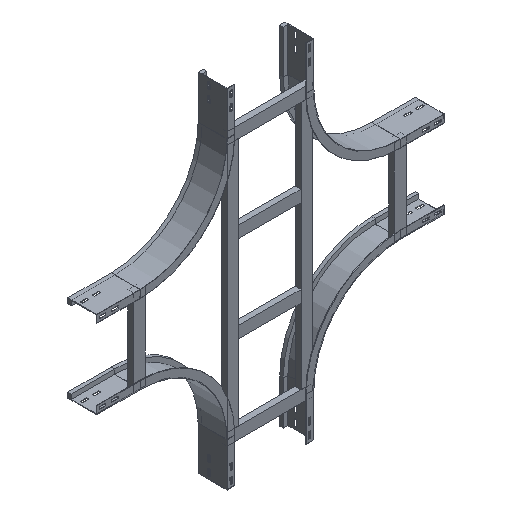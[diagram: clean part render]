
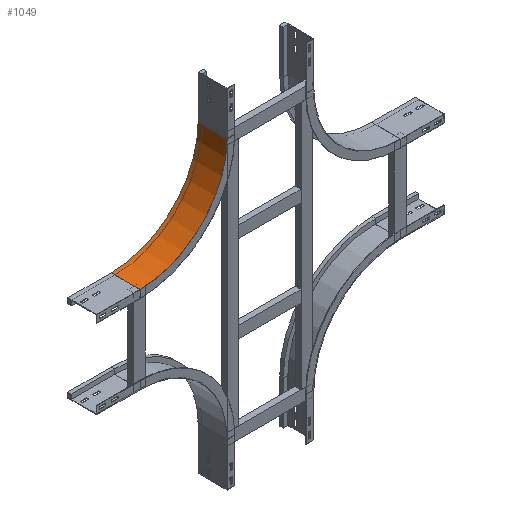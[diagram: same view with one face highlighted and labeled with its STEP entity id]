
A CAD part, isometric view. The second image highlights one B-rep face of the part: STEP entity #1049.
In plain terms, the highlighted cylindrical face has radius 300 mm (diameter 600 mm), a partial arc.
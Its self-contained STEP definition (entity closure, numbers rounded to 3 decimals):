
#33 = EDGE_LOOP ( 'NONE', ( #2462, #1109, #2279, #543 ) ) ;
#81 = CARTESIAN_POINT ( 'NONE',  ( 300., 0., -450. ) ) ;
#94 = VERTEX_POINT ( 'NONE', #178 ) ;
#152 = CIRCLE ( 'NONE', #1960, 300. ) ;
#178 = CARTESIAN_POINT ( 'NONE',  ( 0., 0., -150. ) ) ;
#197 = EDGE_CURVE ( 'NONE', #94, #468, #205, .T. ) ;
#205 = LINE ( 'NONE', #815, #1754 ) ;
#337 = VERTEX_POINT ( 'NONE', #81 ) ;
#468 = VERTEX_POINT ( 'NONE', #1907 ) ;
#512 = CARTESIAN_POINT ( 'NONE',  ( 300., 100., -450. ) ) ;
#520 = CIRCLE ( 'NONE', #2042, 300. ) ;
#543 = ORIENTED_EDGE ( 'NONE', *, *, #665, .T. ) ;
#559 = CYLINDRICAL_SURFACE ( 'NONE', #2439, 300. ) ;
#665 = EDGE_CURVE ( 'NONE', #337, #2461, #1593, .T. ) ;
#766 = DIRECTION ( 'NONE',  ( 0., -1., 0. ) ) ;
#771 = EDGE_CURVE ( 'NONE', #468, #2461, #152, .T. ) ;
#815 = CARTESIAN_POINT ( 'NONE',  ( 0., 0., -150. ) ) ;
#846 = DIRECTION ( 'NONE',  ( 0., 1., 0. ) ) ;
#882 = VECTOR ( 'NONE', #846, 1000. ) ;
#952 = CARTESIAN_POINT ( 'NONE',  ( 300., 0., -150. ) ) ;
#968 = DIRECTION ( 'NONE',  ( 0., 1., 0. ) ) ;
#1049 = ADVANCED_FACE ( 'NONE', ( #2103 ), #559, .F. ) ;
#1072 = DIRECTION ( 'NONE',  ( -1., 0., 0. ) ) ;
#1109 = ORIENTED_EDGE ( 'NONE', *, *, #197, .F. ) ;
#1284 = EDGE_CURVE ( 'NONE', #94, #337, #520, .T. ) ;
#1442 = CARTESIAN_POINT ( 'NONE',  ( 300., 100., -150. ) ) ;
#1593 = LINE ( 'NONE', #2188, #882 ) ;
#1668 = DIRECTION ( 'NONE',  ( 0., -1., 0. ) ) ;
#1754 = VECTOR ( 'NONE', #968, 1000. ) ;
#1907 = CARTESIAN_POINT ( 'NONE',  ( 0., 100., -150. ) ) ;
#1960 = AXIS2_PLACEMENT_3D ( 'NONE', #1442, #2253, #1072 ) ;
#2042 = AXIS2_PLACEMENT_3D ( 'NONE', #2438, #1668, #2427 ) ;
#2103 = FACE_OUTER_BOUND ( 'NONE', #33, .T. ) ;
#2113 = DIRECTION ( 'NONE',  ( 0., 0., -1. ) ) ;
#2188 = CARTESIAN_POINT ( 'NONE',  ( 300., 0., -450. ) ) ;
#2253 = DIRECTION ( 'NONE',  ( 0., -1., 0. ) ) ;
#2279 = ORIENTED_EDGE ( 'NONE', *, *, #1284, .T. ) ;
#2427 = DIRECTION ( 'NONE',  ( -1., 0., 0. ) ) ;
#2438 = CARTESIAN_POINT ( 'NONE',  ( 300., 0., -150. ) ) ;
#2439 = AXIS2_PLACEMENT_3D ( 'NONE', #952, #766, #2113 ) ;
#2461 = VERTEX_POINT ( 'NONE', #512 ) ;
#2462 = ORIENTED_EDGE ( 'NONE', *, *, #771, .F. ) ;
